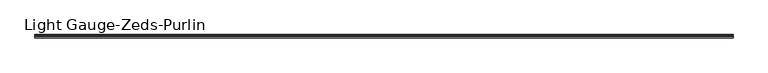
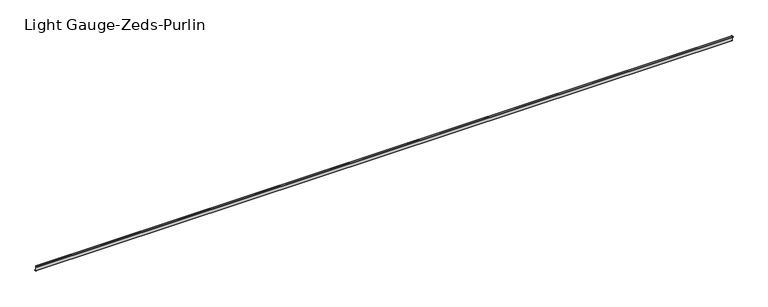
"""IFC4 building model written with IfcOpenShell, lengths in millimetres: beam geometry, Light Gauge-Zeds-Purlin : Metsec-202Z20."""

import ifcopenshell
import ifcopenshell.guid

model = None  # the IFC model being written
_history = None  # IfcOwnerHistory: only IFC2X3 demands one
_inside = {}  # id of a spatial element -> (the spatial element, [elements in it])
_under = {}  # id of a project, library or spatial element -> (it, [spatial elements below it])
_declared = {}  # id of a project -> (the project, [libraries it declares])
_typed = {}  # id of a type object -> (the type object, [elements of that type])
_made_of = {}  # id of a material, layer set ... -> (it, [elements and type objects made of it])


def new_model(schema):
    """Start an empty IFC model of exactly this schema.

    Asked for "IFC4X3", IfcOpenShell would pick the latest addendum, in which some entities
    have other attributes; the version numbers below select the first issue.
    IFC2X3 requires an IfcOwnerHistory on every rooted entity: one is made here for all.
    """
    global model, _history
    if schema == "IFC4X3":
        model = ifcopenshell.file(schema_version=(4, 3, 0, 0))
    else:
        model = ifcopenshell.file(schema=schema)
    _inside.clear()
    _under.clear()
    _declared.clear()
    _typed.clear()
    _made_of.clear()
    _history = None
    if model.schema == "IFC2X3":
        org = make("IfcOrganization", Name="unknown")
        user = make(
            "IfcPersonAndOrganization",
            ThePerson=make("IfcPerson", FamilyName="unknown"),
            TheOrganization=org,
        )
        app = make(
            "IfcApplication",
            ApplicationDeveloper=org,
            Version="unknown",
            ApplicationFullName="unknown",
            ApplicationIdentifier="unknown",
        )
        _history = make(
            "IfcOwnerHistory",
            OwningUser=user,
            OwningApplication=app,
            ChangeAction="ADDED",
            CreationDate=0,
        )
    return model


def make(cls, **values):
    """One entity of the class cls with the attributes given. An attribute that is None is left unset."""
    return model.create_entity(
        cls, **{name: value for name, value in values.items() if value is not None}
    )


def rooted(cls, **values):
    """An entity with a GlobalId (a new one), such as an element, a storey or a relation."""
    return make(cls, GlobalId=ifcopenshell.guid.new(), OwnerHistory=_history, **values)


def si_unit(unit_type, name, prefix=None):
    """IfcSIUnit, for example si_unit("LENGTHUNIT", "METRE", prefix="MILLI")."""
    return make("IfcSIUnit", UnitType=unit_type, Prefix=prefix, Name=name)


def assignment(units):
    """IfcUnitAssignment: the units of a project."""
    return None if units is None else make("IfcUnitAssignment", Units=units)


def point(xyz):
    """IfcCartesianPoint."""
    return None if xyz is None else make("IfcCartesianPoint", Coordinates=xyz)


def direction(xyz):
    """IfcDirection."""
    return None if xyz is None else make("IfcDirection", DirectionRatios=xyz)


def frame(location, z_axis=None, x_axis=None):
    """IfcAxis2Placement3D, a coordinate frame: its origin and axes. An axis left out is left unset."""
    return make(
        "IfcAxis2Placement3D",
        Location=point(location),
        Axis=direction(z_axis),
        RefDirection=direction(x_axis),
    )


def frame_2d(location, x_axis=None):
    """IfcAxis2Placement2D, a coordinate frame in the plane: its origin and x axis."""
    return make(
        "IfcAxis2Placement2D", Location=point(location), RefDirection=direction(x_axis)
    )


def origin():
    """The frame at (0, 0, 0) with its axes left unset."""
    return frame((0.0, 0.0, 0.0))


def place(relative_to, where):
    """IfcLocalPlacement: puts the frame where relative to a parent placement (None: the world)."""
    return make(
        "IfcLocalPlacement", PlacementRelTo=relative_to, RelativePlacement=where
    )


def context(
    kind, dimensions, precision=None, world=None, true_north=None, identifier=None
):
    """IfcGeometricRepresentationContext, for example the 3D "Model" context."""
    return make(
        "IfcGeometricRepresentationContext",
        ContextIdentifier=identifier,
        ContextType=kind,
        CoordinateSpaceDimension=dimensions,
        Precision=precision,
        WorldCoordinateSystem=world,
        TrueNorth=true_north,
    )


def project(units=None, contexts=None):
    """IfcProject with its units and contexts."""
    return rooted(
        "IfcProject",
        Name="project",
        RepresentationContexts=contexts,
        UnitsInContext=assignment(units),
    )


def spatial(cls, under=None, at=None, **own):
    """A site, building, storey or space (cls), placed at a placement, below another one or the project."""
    s = rooted(cls, ObjectPlacement=at, **own)
    if under is not None:
        _under.setdefault(under.id(), (under, []))[1].append(s)
    return s


def polyline(points):
    """IfcPolyline through the points."""
    return make("IfcPolyline", Points=[point(p) for p in points])


def circle_curve(where, radius):
    """IfcCircle in the frame where."""
    return make("IfcCircle", Position=where, Radius=radius)


def trimmed(basis, trim1, trim2, sense, master):
    """IfcTrimmedCurve: the piece of a basis curve between two trims."""
    return make(
        "IfcTrimmedCurve",
        BasisCurve=basis,
        Trim1=trim1,
        Trim2=trim2,
        SenseAgreement=sense,
        MasterRepresentation=master,
    )


def segment(curve, same_sense, transition):
    """IfcCompositeCurveSegment."""
    return make(
        "IfcCompositeCurveSegment",
        Transition=transition,
        SameSense=same_sense,
        ParentCurve=curve,
    )


def composite_curve(segments, self_intersect=None):
    """IfcCompositeCurve: segments joined end to end."""
    return make("IfcCompositeCurve", Segments=segments, SelfIntersect=self_intersect)


def outline(outer, holes=None, kind="AREA"):
    """IfcArbitraryClosedProfileDef: a profile drawn as a closed curve; with holes, ...WithVoids."""
    if holes is None:
        return make("IfcArbitraryClosedProfileDef", ProfileType=kind, OuterCurve=outer)
    return make(
        "IfcArbitraryProfileDefWithVoids",
        ProfileType=kind,
        OuterCurve=outer,
        InnerCurves=holes,
    )


def extrude(swept, where, along, depth):
    """IfcExtrudedAreaSolid: the profile swept, set in the frame where, extruded along a direction by depth."""
    return make(
        "IfcExtrudedAreaSolid",
        SweptArea=swept,
        Position=where,
        ExtrudedDirection=direction(along),
        Depth=depth,
    )


def shape(context_of_items, identifier, shape_type, items):
    """IfcShapeRepresentation: the items that make up one representation, for example the "Body"."""
    return make(
        "IfcShapeRepresentation",
        ContextOfItems=context_of_items,
        RepresentationIdentifier=identifier,
        RepresentationType=shape_type,
        Items=items,
    )


def source(mapping_origin, context_of_items, identifier, shape_type, items):
    """IfcRepresentationMap: a shape defined once, which mapped items show again and again."""
    return make(
        "IfcRepresentationMap",
        MappingOrigin=mapping_origin,
        MappedRepresentation=shape(context_of_items, identifier, shape_type, items),
    )


def transform(
    local_origin,
    x_axis=None,
    y_axis=None,
    z_axis=None,
    scale=None,
    scale2=None,
    scale3=None,
    uniform=True,
):
    """IfcCartesianTransformationOperator3D, or its non-uniform kind. x_axis, y_axis, z_axis: its Axis1, 2, 3."""
    if uniform:
        return make(
            "IfcCartesianTransformationOperator3D",
            Axis1=direction(x_axis),
            Axis2=direction(y_axis),
            LocalOrigin=point(local_origin),
            Scale=scale,
            Axis3=direction(z_axis),
        )
    return make(
        "IfcCartesianTransformationOperator3DnonUniform",
        Axis1=direction(x_axis),
        Axis2=direction(y_axis),
        LocalOrigin=point(local_origin),
        Scale=scale,
        Axis3=direction(z_axis),
        Scale2=scale2,
        Scale3=scale3,
    )


def mapped(mapping_source, mapping_target):
    """IfcMappedItem: shows the shape of a source again, moved by a transform."""
    return make(
        "IfcMappedItem", MappingSource=mapping_source, MappingTarget=mapping_target
    )


def made_of(thing, what):
    """Note that an element or type object is made of a material, layer set ...; save() writes the relation."""
    if what is not None:
        _made_of.setdefault(what.id(), (what, []))[1].append(thing)
    return thing


def element(
    cls,
    number,
    at=None,
    inside=None,
    cuts=None,
    type_object=None,
    material=None,
    context=None,
    identifier="Body",
    shape_type=None,
    held_by="IfcProductDefinitionShape",
    body=None,
    shapes=None,
    **own,
):
    """One element of the class cls, such as IfcWall. Its Tag is "e" and its number.

    at: its placement. inside: the storey or other place that contains it. cuts: it is an
    opening in that element (IfcRelVoidsElement). A single representation is given by context,
    identifier, shape_type and body (its items); several are given by shapes. held_by: the class
    of the entity that holds the representations. save() writes the other relations.
    """
    e = rooted(cls, Tag="e%d" % number, ObjectPlacement=at, **own)
    if body is not None:
        shapes = [shape(context, identifier, shape_type, body)]
    if shapes is not None:
        e.Representation = make(held_by, Representations=shapes)
    if inside is not None:
        _inside.setdefault(inside.id(), (inside, []))[1].append(e)
    if cuts is not None:
        rooted(
            "IfcRelVoidsElement", RelatingBuildingElement=cuts, RelatedOpeningElement=e
        )
    if type_object is not None:
        _typed.setdefault(type_object.id(), (type_object, []))[1].append(e)
    return made_of(e, material)


def aggregate(whole, parts):
    """IfcRelAggregates: a whole, such as a stair, and the parts it consists of."""
    return rooted("IfcRelAggregates", RelatingObject=whole, RelatedObjects=parts)


def save(model, path):
    """Write the relations noted so far, then the file.

    IfcRelAggregates (storeys below a building ...), IfcRelContainedInSpatialStructure (elements
    in a storey), IfcRelDefinesByType, IfcRelAssociatesMaterial and IfcRelDeclares: one each for
    every whole, place, type object, material and project.
    """
    for whole, parts in _under.values():
        aggregate(whole, parts)
    for where, things in _inside.values():
        rooted(
            "IfcRelContainedInSpatialStructure",
            RelatedElements=things,
            RelatingStructure=where,
        )
    for kind, things in _typed.values():
        rooted("IfcRelDefinesByType", RelatedObjects=things, RelatingType=kind)
    for what, things in _made_of.values():
        rooted("IfcRelAssociatesMaterial", RelatedObjects=things, RelatingMaterial=what)
    for by, libraries in _declared.values():
        rooted("IfcRelDeclares", RelatingContext=by, RelatedDefinitions=libraries)
    model.write(path)


def light_gauge_zeds_purlin_74075710(model_context):
    return source(origin(), model_context, "Body", "SweptSolid", [
        extrude(outline(composite_curve([segment(trimmed(circle_curve(frame_2d((55.8, -97.9)), 4.0), [point((59.8, -97.9))], [point((55.8, -101.9))], False, "CARTESIAN"), True, "CONTINUOUS"), segment(polyline([(55.8, -101.9), (3.8, -101.9)]), True, "CONTINUOUS"), segment(trimmed(circle_curve(frame_2d((3.8, -97.9)), 4.0), [point((3.8, -101.9))], [point((-0.2, -97.9))], False, "CARTESIAN"), True, "CONTINUOUS"), segment(polyline([(-0.2, -97.9), (-0.2, 96.1)]), True, "CONTINUOUS"), segment(trimmed(circle_curve(frame_2d((-2.2, 96.1)), 2.0), [point((-0.2, 96.1))], [point((-2.2, 98.1))], True, "CARTESIAN"), True, "CONTINUOUS"), segment(polyline([(-2.2, 98.1), (-59.2, 98.1)]), True, "CONTINUOUS"), segment(trimmed(circle_curve(frame_2d((-59.2, 96.1)), 2.0), [point((-59.2, 98.1))], [point((-61.2, 96.1))], True, "CARTESIAN"), True, "CONTINUOUS"), segment(polyline([(-61.2, 96.1), (-61.2, 81.1), (-63.2, 81.1), (-63.2, 96.1)]), True, "CONTINUOUS"), segment(trimmed(circle_curve(frame_2d((-59.2, 96.1)), 4.0), [point((-63.2, 96.1))], [point((-59.2, 100.1))], False, "CARTESIAN"), True, "CONTINUOUS"), segment(polyline([(-59.2, 100.1), (-2.2, 100.1)]), True, "CONTINUOUS"), segment(trimmed(circle_curve(frame_2d((-2.2, 96.1)), 4.0), [point((-2.2, 100.1))], [point((1.8, 96.1))], False, "CARTESIAN"), True, "CONTINUOUS"), segment(polyline([(1.8, 96.1), (1.8, -97.9)]), True, "CONTINUOUS"), segment(trimmed(circle_curve(frame_2d((3.8, -97.9)), 2.0), [point((1.8, -97.9))], [point((3.8, -99.9))], True, "CARTESIAN"), True, "CONTINUOUS"), segment(polyline([(3.8, -99.9), (55.8, -99.9)]), True, "CONTINUOUS"), segment(trimmed(circle_curve(frame_2d((55.8, -97.9)), 2.0), [point((55.8, -99.9))], [point((57.8, -97.9))], True, "CARTESIAN"), True, "CONTINUOUS"), segment(polyline([(57.8, -97.9), (57.8, -80.9), (59.8, -80.9), (59.8, -97.9)]), True, "CONTINUOUS")], self_intersect=False)), frame((-13200.0, 0.0, 0.0), z_axis=(1.0, 0.0, 0.0), x_axis=(0.0, 1.0, 0.0)), (0.0, 0.0, 1.0), 26400.0),
    ])


if __name__ == "__main__":
    model = new_model("IFC4")
    model_context = context("Model", 3, world=origin())
    ifc_project = project(units=[si_unit("LENGTHUNIT", "METRE", prefix="MILLI")], contexts=[model_context])
    site = spatial("IfcSite", under=ifc_project)
    building = spatial("IfcBuilding", under=site)
    placement = place(None, origin())
    light_gauge_zeds_purlin_shape = light_gauge_zeds_purlin_74075710(model_context)
    element("IfcBeam", 1, ObjectType="Light Gauge-Zeds-Purlin : Metsec-202Z20", at=placement, inside=building, context=model_context, shape_type="MappedRepresentation", body=[
        mapped(light_gauge_zeds_purlin_shape, transform((0.0, 0.0, 0.0), x_axis=(1.0, 0.0, 0.0), y_axis=(0.0, 1.0, 0.0), z_axis=(0.0, 0.0, 1.0))),
    ])
    save(model, "model.ifc")
